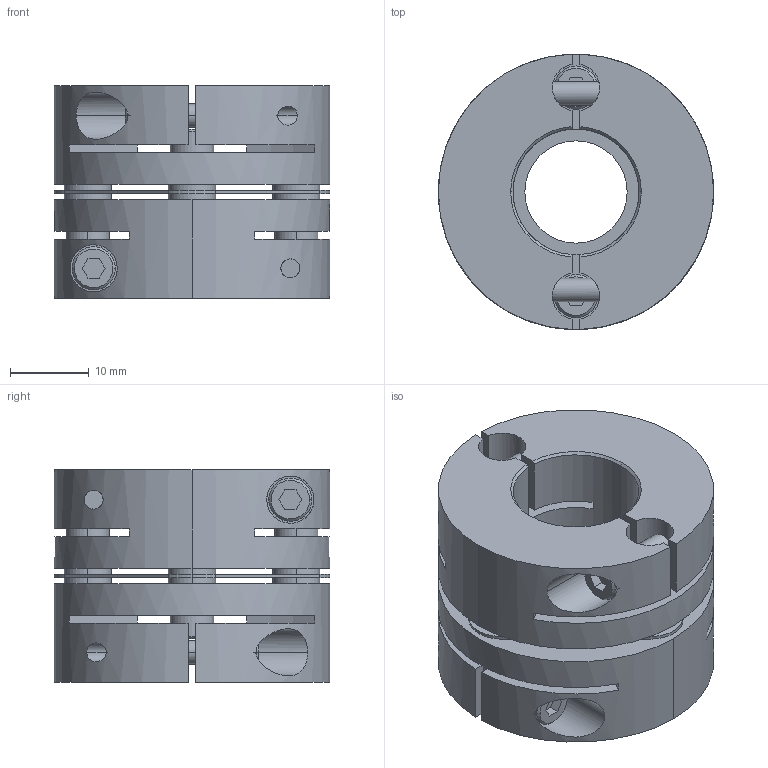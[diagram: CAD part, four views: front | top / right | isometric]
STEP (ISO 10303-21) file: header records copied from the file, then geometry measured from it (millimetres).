
FILE_DESCRIPTION((''),'2;1');
FILE_NAME('LAS-35C-16×16.stp','2011-08-10T16:52:44',(''),(''),'AutoCAD STEP 2000i','AutoCAD 2000i',', , ');
FILE_SCHEMA(('CONFIG_CONTROL_DESIGN'));
Length unit declared in the file: millimetre
Products named in the file (7): LAS-35C-14×14; 忣兜1; LA-3502-D14-1; LA-3502-D14; LA-3502-D08-1; LA-3502-D08; LAS35-ITA
Assembly tree (6 placements, depth 2):
  LAS-35C-14×14
    忣兜1
    LA-3502-D14-1
    LA-3502-D14
    LA-3502-D08-1
    LA-3502-D08
    LAS35-ITA
Bounding box: 35 x 35 x 27 mm (x, y, z)
Volume: 17283.4 mm3; surface area: 11454.9 mm2
Topology: 1 solids, 1 shells, 236 faces, 624 edges, 408 vertices
Faces by surface type: plane 112, cylinder 96, cone 28
Entity records: 8359 total; most frequent: CARTESIAN_POINT 2187, DIRECTION 1274, ORIENTED_EDGE 1248, EDGE_CURVE 624, AXIS2_PLACEMENT_3D 463, VERTEX_POINT 408, VECTOR 348, LINE 348
